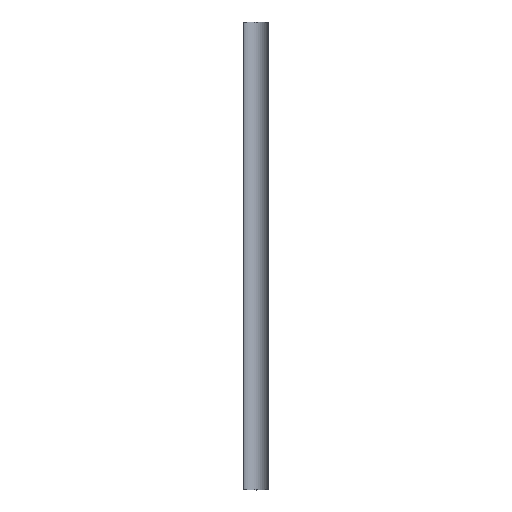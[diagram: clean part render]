
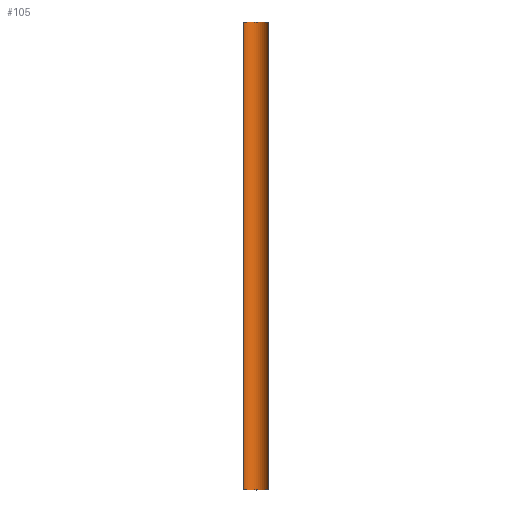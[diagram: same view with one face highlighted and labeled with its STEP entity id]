
A CAD part, top view. The second image highlights one B-rep face of the part: STEP entity #105.
In plain terms, the highlighted cylindrical face has radius 80 mm (diameter 160 mm), a partial arc.
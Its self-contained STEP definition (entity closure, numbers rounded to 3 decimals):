
#13=CYLINDRICAL_SURFACE($,#117,80.);
#18=FACE_OUTER_BOUND($,#24,.T.);
#24=EDGE_LOOP($,(#82,#83,#84,#85));
#26=CIRCLE($,#111,80.);
#29=CIRCLE($,#118,80.);
#34=LINE($,#165,#42);
#37=LINE($,#173,#45);
#42=VECTOR($,#134,3000.);
#45=VECTOR($,#143,3000.);
#46=VERTEX_POINT($,#152);
#48=VERTEX_POINT($,#155);
#50=VERTEX_POINT($,#161);
#53=VERTEX_POINT($,#171);
#55=EDGE_CURVE($,#48,#46,#26,.T.);
#60=EDGE_CURVE($,#50,#48,#34,.T.);
#64=EDGE_CURVE($,#46,#53,#37,.T.);
#65=EDGE_CURVE($,#53,#50,#29,.T.);
#82=ORIENTED_EDGE($,*,*,#65,.T.);
#83=ORIENTED_EDGE($,*,*,#60,.T.);
#84=ORIENTED_EDGE($,*,*,#55,.T.);
#85=ORIENTED_EDGE($,*,*,#64,.T.);
#105=ADVANCED_FACE($,(#18),#13,.F.);
#111=AXIS2_PLACEMENT_3D($,#156,#125,#126);
#117=AXIS2_PLACEMENT_3D($,#174,#144,#145);
#118=AXIS2_PLACEMENT_3D($,#175,#146,#147);
#125=DIRECTION('center_axis',(0.,-1.,0.));
#126=DIRECTION('ref_axis',(-1.,0.,0.));
#134=DIRECTION($,(0.,-1.,0.));
#143=DIRECTION($,(0.,1.,0.));
#144=DIRECTION('center_axis',(0.,1.,0.));
#145=DIRECTION('ref_axis',(-1.,0.,0.));
#146=DIRECTION('center_axis',(0.,1.,0.));
#147=DIRECTION('ref_axis',(-1.,0.,0.));
#152=CARTESIAN_POINT('',(80.,-1500.,0.));
#155=CARTESIAN_POINT('',(-80.,-1500.,0.));
#156=CARTESIAN_POINT('Origin',(0.,-1500.,0.));
#161=CARTESIAN_POINT('',(-80.,1500.,0.));
#165=CARTESIAN_POINT($,(-80.,0.,0.));
#171=CARTESIAN_POINT('',(80.,1500.,0.));
#173=CARTESIAN_POINT($,(80.,0.,0.));
#174=CARTESIAN_POINT('Origin',(0.,0.,0.));
#175=CARTESIAN_POINT('Origin',(0.,1500.,0.));
